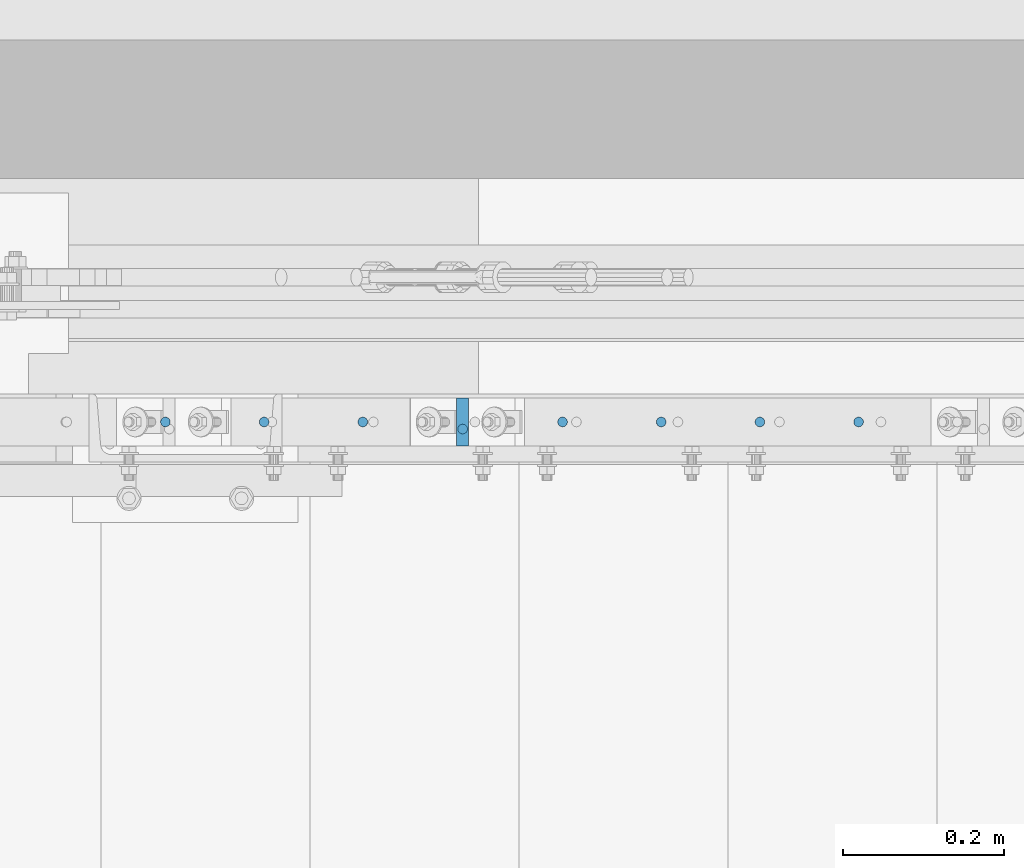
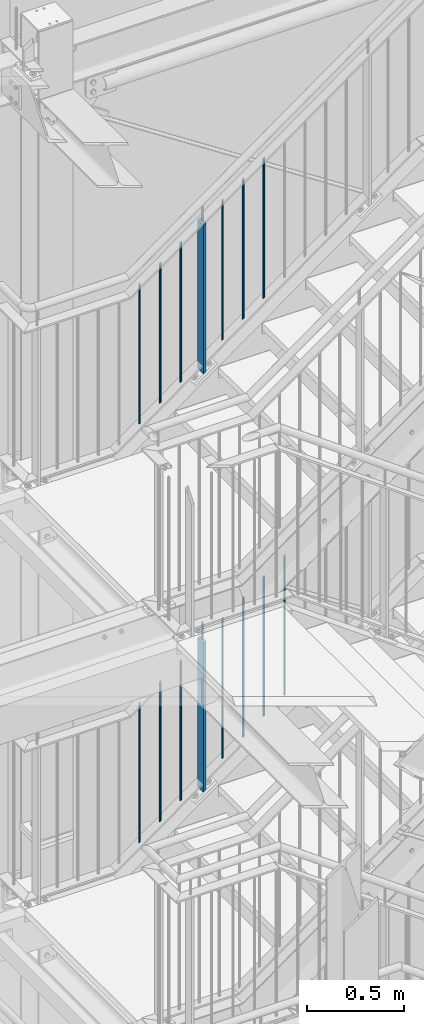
# One storey, part 72 of 831: 16 columns.
"""IFC2X3 building model written with IfcOpenShell, lengths in millimetres."""

from ifc_helpers import new_model, entity, si_unit, converted_unit, frame, origin, origin_with_axes, origin_2d, place, context, project, spatial, rectangle, circle, extrude, clip, halfspace, material, element, save


model = new_model("IFC2X3")

# Units and contexts
model_context = context("Model", 3, precision=1e-09, world=origin_with_axes())
ifc_project = project(units=[si_unit("LENGTHUNIT", "METRE", prefix="MILLI"), si_unit("AREAUNIT", "SQUARE_METRE"), si_unit("VOLUMEUNIT", "CUBIC_METRE"), converted_unit("PLANEANGLEUNIT", "DEGREE", entity("IfcPlaneAngleMeasure", 0.01745329), si_unit("PLANEANGLEUNIT", "RADIAN"), dimensions=[0, 0, 0, 0, 0, 0, 0])], contexts=[model_context])

# Site, building, storey
site_placement = place(None, origin_with_axes())
site = spatial("IfcSite", under=ifc_project, at=site_placement, Name="Site", CompositionType="ELEMENT")
building_placement = place(site_placement, origin_with_axes())
building = spatial("IfcBuilding", under=site, at=building_placement, Name="Struktur 1", CompositionType="ELEMENT")
storey_placement = place(building_placement, origin_with_axes())
storey = spatial("IfcBuildingStorey", under=building, at=storey_placement, Name="Default Storey", CompositionType="ELEMENT", Elevation=0.0)

# Columns
ifc_material = material(Name="S235JR")
column_1_placement = place(None, frame((5686.71354585, 7356.736971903, 13944.413997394), z_axis=(0.0, 0.0, 1.0), x_axis=(1.0, 0.0, 0.0)))
element("IfcColumn", 1, at=column_1_placement, inside=storey, material=ifc_material, Name="Railing_Post_Stair#1", ObjectType="Railing_Post_Stair#1", context=model_context, shape_type="Clipping", body=[
    clip(clip(extrude(rectangle(XDim=15.0, YDim=60.0, at=origin_2d()), origin(), (0.0, 0.0, -1.0), 1013.143391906), halfspace(frame((-9891.723196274, -7356.736971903, -8135.596112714), z_axis=(-0.586383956, 0.0, 0.810033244), x_axis=(0.0, -1.0, 0.0)), True)), halfspace(frame((-10336.689662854, -7356.736971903, -7520.917578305), z_axis=(0.586383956, 0.0, -0.810033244), x_axis=(0.0, 1.0, 0.0)), True)),
])
column_2_placement = place(None, frame((5316.963498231, 7356.736971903, 13649.051420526), z_axis=(0.0, 0.0, 1.0), x_axis=(1.0, 0.0, 0.0)))
element("IfcColumn", 2, at=column_2_placement, inside=storey, material=ifc_material, Name="Railing_Picket_Stair#4", ObjectType="Railing_Picket_Stair#4", context=model_context, shape_type="Clipping", body=[
    clip(clip(extrude(circle(Radius=6.0, at=origin_2d()), origin(), (0.0, 0.0, -1.0), 896.017308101), halfspace(frame((-9966.939615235, -7356.736971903, -7225.555001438), z_axis=(0.586383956, 0.0, -0.810033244), x_axis=(0.0, 1.0, 0.0)), True)), halfspace(frame((-9551.292346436, -7356.736971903, -7799.73187365), z_axis=(-0.586383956, 0.0, 0.810033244), x_axis=(0.0, -1.0, 0.0)), True)),
])
column_3_placement = place(None, frame((5439.713522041, 7356.736971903, 13737.910297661), z_axis=(0.0, 0.0, 1.0), x_axis=(1.0, 0.0, 0.0)))
element("IfcColumn", 3, at=column_3_placement, inside=storey, material=ifc_material, Name="Railing_Picket_Stair#5", ObjectType="Railing_Picket_Stair#5", context=model_context, shape_type="Clipping", body=[
    clip(clip(extrude(circle(Radius=6.0, at=origin_2d()), origin(), (0.0, 0.0, -1.0), 896.017308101), halfspace(frame((-10089.689639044, -7356.736971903, -7314.413878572), z_axis=(0.586383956, 0.0, -0.810033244), x_axis=(0.0, 1.0, 0.0)), True)), halfspace(frame((-9674.042370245, -7356.736971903, -7888.590750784), z_axis=(-0.586383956, 0.0, 0.810033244), x_axis=(0.0, -1.0, 0.0)), True)),
])
column_4_placement = place(None, frame((5562.46354585, 7356.736971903, 13826.769174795), z_axis=(0.0, 0.0, 1.0), x_axis=(1.0, 0.0, 0.0)))
element("IfcColumn", 4, at=column_4_placement, inside=storey, material=ifc_material, Name="Railing_Picket_Stair#6", ObjectType="Railing_Picket_Stair#6", context=model_context, shape_type="Clipping", body=[
    clip(clip(extrude(circle(Radius=6.0, at=origin_2d()), origin(), (0.0, 0.0, -1.0), 896.017308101), halfspace(frame((-10212.439662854, -7356.736971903, -7403.272755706), z_axis=(0.586383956, 0.0, -0.810033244), x_axis=(0.0, 1.0, 0.0)), True)), halfspace(frame((-9796.792394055, -7356.736971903, -7977.449627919), z_axis=(-0.586383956, 0.0, 0.810033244), x_axis=(0.0, -1.0, 0.0)), True)),
])
column_5_placement = place(None, frame((5810.96354585, 7356.736971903, 14006.658597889), z_axis=(0.0, 0.0, 1.0), x_axis=(1.0, 0.0, 0.0)))
element("IfcColumn", 5, at=column_5_placement, inside=storey, material=ifc_material, Name="Railing_Picket_Stair#7", ObjectType="Railing_Picket_Stair#7", context=model_context, shape_type="Clipping", body=[
    clip(clip(extrude(circle(Radius=6.0, at=origin_2d()), origin(), (0.0, 0.0, -1.0), 896.017308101), halfspace(frame((-10460.939662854, -7356.736971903, -7583.1621788), z_axis=(0.586383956, 0.0, -0.810033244), x_axis=(0.0, 1.0, 0.0)), True)), halfspace(frame((-10045.292394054, -7356.736971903, -8157.339051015), z_axis=(-0.586383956, 0.0, 0.810033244), x_axis=(0.0, -1.0, 0.0)), True)),
])
column_6_placement = place(None, frame((5933.71356966, 7356.736971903, 14095.517475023), z_axis=(0.0, 0.0, 1.0), x_axis=(1.0, 0.0, 0.0)))
element("IfcColumn", 6, at=column_6_placement, inside=storey, material=ifc_material, Name="Railing_Picket_Stair#8", ObjectType="Railing_Picket_Stair#8", context=model_context, shape_type="Clipping", body=[
    clip(clip(extrude(circle(Radius=6.0, at=origin_2d()), origin(), (0.0, 0.0, -1.0), 896.017308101), halfspace(frame((-10583.689686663, -7356.736971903, -7672.021055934), z_axis=(0.586383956, 0.0, -0.810033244), x_axis=(0.0, 1.0, 0.0)), True)), halfspace(frame((-10168.042417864, -7356.736971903, -8246.197928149), z_axis=(-0.586383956, 0.0, 0.810033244), x_axis=(0.0, -1.0, 0.0)), True)),
])
column_7_placement = place(None, frame((6056.463593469, 7356.736971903, 14184.376352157), z_axis=(0.0, 0.0, 1.0), x_axis=(1.0, 0.0, 0.0)))
element("IfcColumn", 7, at=column_7_placement, inside=storey, material=ifc_material, Name="Railing_Picket_Stair#9", ObjectType="Railing_Picket_Stair#9", context=model_context, shape_type="Clipping", body=[
    clip(clip(extrude(circle(Radius=6.0, at=origin_2d()), origin(), (0.0, 0.0, -1.0), 896.017308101), halfspace(frame((-10706.439710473, -7356.736971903, -7760.879933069), z_axis=(0.586383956, 0.0, -0.810033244), x_axis=(0.0, 1.0, 0.0)), True)), halfspace(frame((-10290.792441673, -7356.736971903, -8335.056805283), z_axis=(-0.586383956, 0.0, 0.810033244), x_axis=(0.0, -1.0, 0.0)), True)),
])
column_8_placement = place(None, frame((6179.213617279, 7356.736971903, 14273.235229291), z_axis=(0.0, 0.0, 1.0), x_axis=(1.0, 0.0, 0.0)))
element("IfcColumn", 8, at=column_8_placement, inside=storey, material=ifc_material, Name="Railing_Picket_Stair#10", ObjectType="Railing_Picket_Stair#10", context=model_context, shape_type="Clipping", body=[
    clip(clip(extrude(circle(Radius=6.0, at=origin_2d()), origin(), (0.0, 0.0, -1.0), 896.017308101), halfspace(frame((-10829.189734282, -7356.736971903, -7849.738810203), z_axis=(0.586383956, 0.0, -0.810033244), x_axis=(0.0, 1.0, 0.0)), True)), halfspace(frame((-10413.542465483, -7356.736971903, -8423.915682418), z_axis=(-0.586383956, 0.0, 0.810033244), x_axis=(0.0, -1.0, 0.0)), True)),
])
column_9_placement = place(None, frame((5686.71354585, 7347.936971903, 14029.059058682), z_axis=(0.0, 0.0, 1.0), x_axis=(0.0, -1.0, 0.0)))
element("IfcColumn", 9, at=column_9_placement, inside=storey, material=ifc_material, Name="Bar#1", ObjectType="Bar#1", context=model_context, shape_type="Clipping", body=[
    clip(clip(extrude(circle(Radius=6.0, at=origin_2d()), origin(), (0.0, 0.0, -1.0), 120.950452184), halfspace(frame((7347.936971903, -10342.554675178, -7597.460687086), z_axis=(0.0, -0.586383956, 0.810033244), x_axis=(1.0, 0.0, 0.0)), True)), halfspace(frame((7347.936971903, -10390.052552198, -7531.846921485), z_axis=(0.0, 0.586383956, -0.810033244), x_axis=(-1.0, 0.0, 0.0)), True)),
])
column_10_placement = place(None, frame((5686.71354585, 7356.736971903, 16577.560268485), z_axis=(0.0, 0.0, 1.0), x_axis=(1.0, 0.0, 0.0)))
element("IfcColumn", 10, at=column_10_placement, inside=storey, material=ifc_material, Name="Railing_Post_Stair#1", ObjectType="Railing_Post_Stair#1", context=model_context, shape_type="Clipping", body=[
    clip(clip(extrude(rectangle(XDim=15.0, YDim=60.0, at=origin_2d()), origin(), (0.0, 0.0, -1.0), 1013.117713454), halfspace(frame((-11143.732055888, -7356.736971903, -8996.053634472), z_axis=(-0.584187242, 0.0, 0.811618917), x_axis=(0.0, -1.0, 0.0)), True)), halfspace(frame((-11587.957917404, -7356.736971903, -8378.884880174), z_axis=(0.584187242, 0.0, -0.811618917), x_axis=(0.0, 1.0, 0.0)), True)),
])
column_11_placement = place(None, frame((5316.963498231, 7356.736971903, 16283.775505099), z_axis=(0.0, 0.0, 1.0), x_axis=(1.0, 0.0, 0.0)))
element("IfcColumn", 11, at=column_11_placement, inside=storey, material=ifc_material, Name="Railing_Picket_Stair#4", ObjectType="Railing_Picket_Stair#4", context=model_context, shape_type="Clipping", body=[
    clip(clip(extrude(circle(Radius=6.0, at=origin_2d()), origin(), (0.0, 0.0, -1.0), 896.220460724), halfspace(frame((-11218.207869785, -7356.736971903, -8085.100116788), z_axis=(0.584187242, 0.0, -0.811618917), x_axis=(0.0, 1.0, 0.0)), True)), halfspace(frame((-10803.191370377, -7356.736971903, -8661.687925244), z_axis=(-0.584187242, 0.0, 0.811618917), x_axis=(0.0, -1.0, 0.0)), True)),
])
column_12_placement = place(None, frame((5439.713522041, 7356.736971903, 16372.128544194), z_axis=(0.0, 0.0, 1.0), x_axis=(1.0, 0.0, 0.0)))
element("IfcColumn", 12, at=column_12_placement, inside=storey, material=ifc_material, Name="Railing_Picket_Stair#5", ObjectType="Railing_Picket_Stair#5", context=model_context, shape_type="Clipping", body=[
    clip(clip(extrude(circle(Radius=6.0, at=origin_2d()), origin(), (0.0, 0.0, -1.0), 896.220460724), halfspace(frame((-11340.957893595, -7356.736971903, -8173.453155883), z_axis=(0.584187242, 0.0, -0.811618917), x_axis=(0.0, 1.0, 0.0)), True)), halfspace(frame((-10925.941394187, -7356.736971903, -8750.04096434), z_axis=(-0.584187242, 0.0, 0.811618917), x_axis=(0.0, -1.0, 0.0)), True)),
])
column_13_placement = place(None, frame((5562.46354585, 7356.736971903, 16460.48158329), z_axis=(0.0, 0.0, 1.0), x_axis=(1.0, 0.0, 0.0)))
element("IfcColumn", 13, at=column_13_placement, inside=storey, material=ifc_material, Name="Railing_Picket_Stair#6", ObjectType="Railing_Picket_Stair#6", context=model_context, shape_type="Clipping", body=[
    clip(clip(extrude(circle(Radius=6.0, at=origin_2d()), origin(), (0.0, 0.0, -1.0), 896.220460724), halfspace(frame((-11463.707917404, -7356.736971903, -8261.806194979), z_axis=(0.584187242, 0.0, -0.811618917), x_axis=(0.0, 1.0, 0.0)), True)), halfspace(frame((-11048.691417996, -7356.736971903, -8838.394003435), z_axis=(-0.584187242, 0.0, 0.811618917), x_axis=(0.0, -1.0, 0.0)), True)),
])
column_14_placement = place(None, frame((5810.96354585, 7356.736971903, 16639.346967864), z_axis=(0.0, 0.0, 1.0), x_axis=(1.0, 0.0, 0.0)))
element("IfcColumn", 14, at=column_14_placement, inside=storey, material=ifc_material, Name="Railing_Picket_Stair#7", ObjectType="Railing_Picket_Stair#7", context=model_context, shape_type="Clipping", body=[
    clip(clip(extrude(circle(Radius=6.0, at=origin_2d()), origin(), (0.0, 0.0, -1.0), 896.220460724), halfspace(frame((-11712.207917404, -7356.736971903, -8440.671579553), z_axis=(0.584187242, 0.0, -0.811618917), x_axis=(0.0, 1.0, 0.0)), True)), halfspace(frame((-11297.191417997, -7356.736971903, -9017.259388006), z_axis=(-0.584187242, 0.0, 0.811618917), x_axis=(0.0, -1.0, 0.0)), True)),
])
column_15_placement = place(None, frame((5933.71356966, 7356.736971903, 16727.70000696), z_axis=(0.0, 0.0, 1.0), x_axis=(1.0, 0.0, 0.0)))
element("IfcColumn", 15, at=column_15_placement, inside=storey, material=ifc_material, Name="Railing_Picket_Stair#8", ObjectType="Railing_Picket_Stair#8", context=model_context, shape_type="Clipping", body=[
    clip(clip(extrude(circle(Radius=6.0, at=origin_2d()), origin(), (0.0, 0.0, -1.0), 896.220460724), halfspace(frame((-11834.957941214, -7356.736971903, -8529.024618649), z_axis=(0.584187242, 0.0, -0.811618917), x_axis=(0.0, 1.0, 0.0)), True)), halfspace(frame((-11419.941441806, -7356.736971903, -9105.612427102), z_axis=(-0.584187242, 0.0, 0.811618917), x_axis=(0.0, -1.0, 0.0)), True)),
])
column_16_placement = place(None, frame((6056.463593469, 7356.736971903, 16816.053046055), z_axis=(0.0, 0.0, 1.0), x_axis=(1.0, 0.0, 0.0)))
element("IfcColumn", 16, at=column_16_placement, inside=storey, material=ifc_material, Name="Railing_Picket_Stair#9", ObjectType="Railing_Picket_Stair#9", context=model_context, shape_type="Clipping", body=[
    clip(clip(extrude(circle(Radius=6.0, at=origin_2d()), origin(), (0.0, 0.0, -1.0), 896.220460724), halfspace(frame((-11957.707965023, -7356.736971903, -8617.377657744), z_axis=(0.584187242, 0.0, -0.811618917), x_axis=(0.0, 1.0, 0.0)), True)), halfspace(frame((-11542.691465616, -7356.736971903, -9193.965466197), z_axis=(-0.584187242, 0.0, 0.811618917), x_axis=(0.0, -1.0, 0.0)), True)),
])

save(model, "model.ifc")
